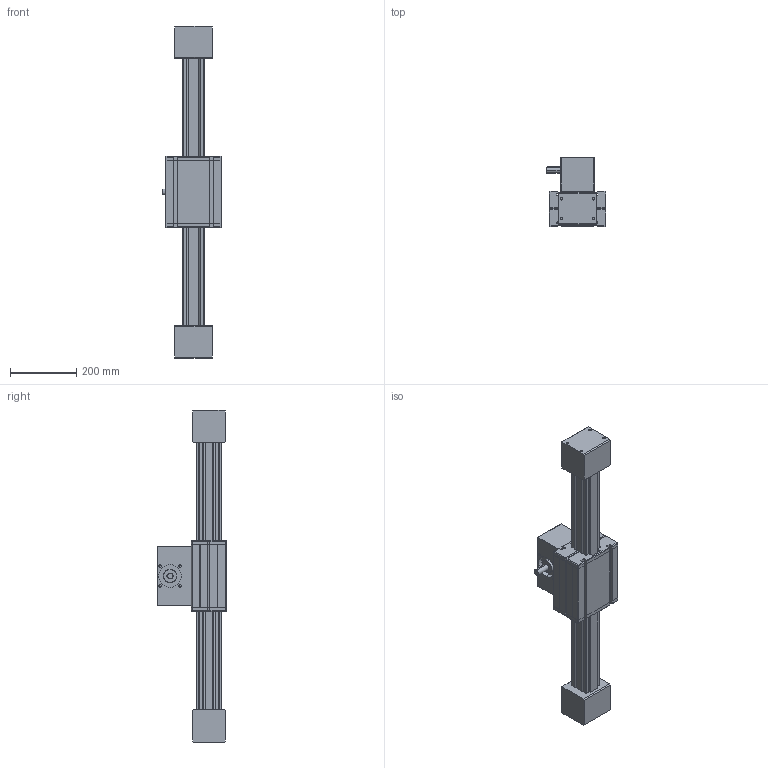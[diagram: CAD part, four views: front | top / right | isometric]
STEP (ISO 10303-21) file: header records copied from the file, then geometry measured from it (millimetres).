
FILE_DESCRIPTION (( 'STEP AP214' ), '1' );
FILE_NAME ('ELFZ60S.STEP', '2022-07-21T09:41:49', ( '' ), ( '' ), 'SwSTEP 2.0', 'SolidWorks 2020', '' );
FILE_SCHEMA (( 'AUTOMOTIVE_DESIGN' ));
Length unit declared in the file: millimetre
Products named in the file (5): timing belt reverse unit^ELFZ60S_60S; ELFZ60S; profile^ELFZ60S; carriage^ELFZ60S_S0; timing belt reverse unit carriage^ELFZ60S_shaft pos. 1
Assembly tree (5 placements, depth 2):
  ELFZ60S
    profile^ELFZ60S
    carriage^ELFZ60S_S0
    timing belt reverse unit carriage^ELFZ60S_shaft pos. 1
    timing belt reverse unit^ELFZ60S_60S  x2
Bounding box: 179 x 208 x 1000 mm (x, y, z)
Volume: 9655967.3 mm3; surface area: 1033298.8 mm2
Topology: 16 solids, 16 shells, 523 faces, 1354 edges, 866 vertices
Faces by surface type: plane 336, cylinder 161, sphere 20, cone 6
Entity records: 15687 total; most frequent: CARTESIAN_POINT 2703, DIRECTION 2600, ORIENTED_EDGE 2572, EDGE_CURVE 1286, LINE 978, VECTOR 978, VERTEX_POINT 834, AXIS2_PLACEMENT_3D 811
